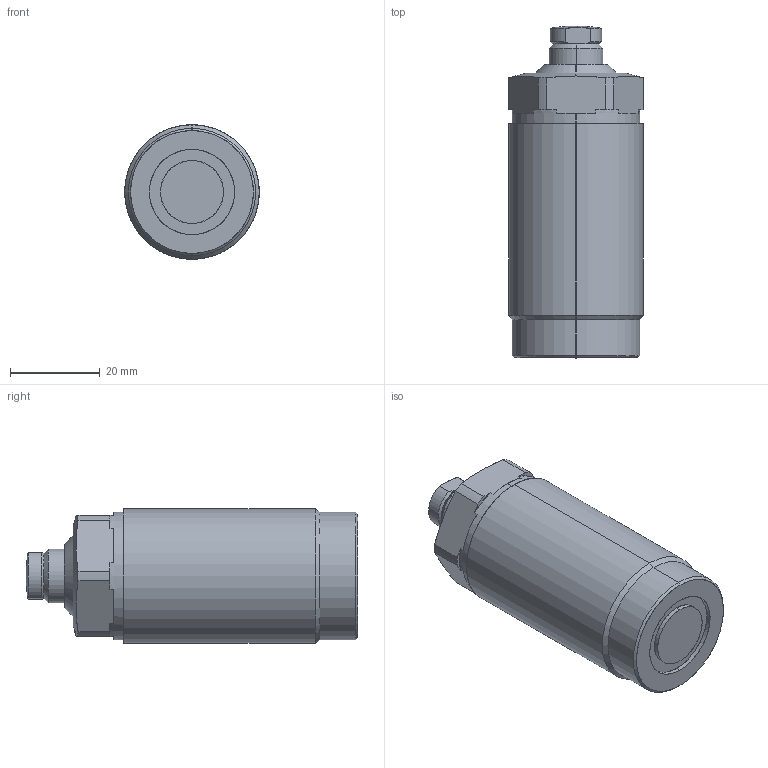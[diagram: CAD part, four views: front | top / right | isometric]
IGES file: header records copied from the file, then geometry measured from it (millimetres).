
Start section: SolidWorks IGES file using analytic representation for surfaces
Global section: file name: D:\karuppas\Clasp\3D model\Work support\Work support TW09-M301\TW09-M301 Work support.SLDPRT.IGS; native system: SolidWorks 2017; preprocessor: SolidWorks 2017; author: pc; date: 220709.224507; units: millimetre
Bounding box: 30 x 74 x 30 mm (x, y, z)
Surface area: 10229.3 mm2 (no closed solid volume)
Topology: 0 solids, 0 shells, 256 faces, 3064 edges, 3060 vertices
Faces by surface type: bspline 201, revolution 55
